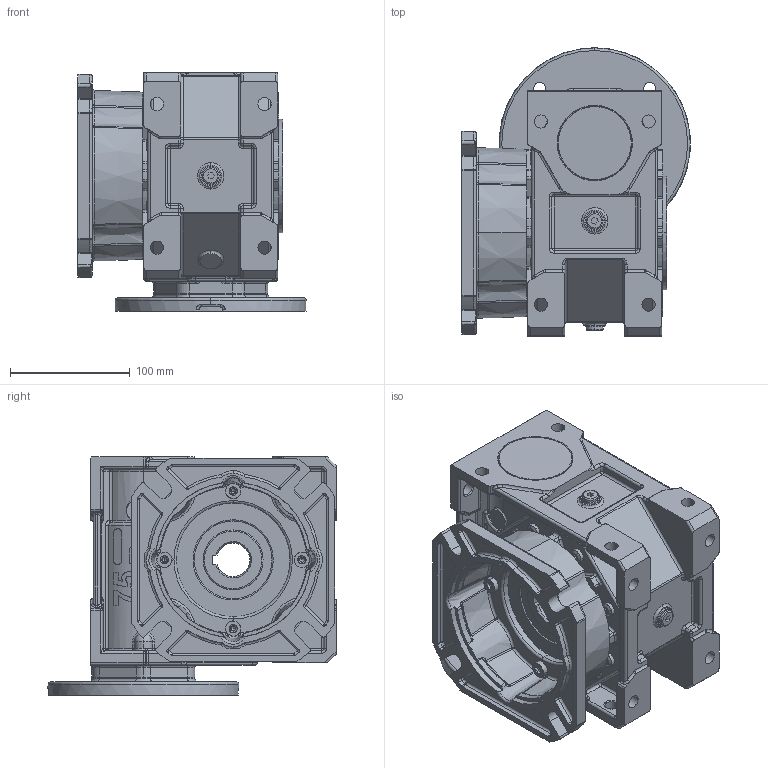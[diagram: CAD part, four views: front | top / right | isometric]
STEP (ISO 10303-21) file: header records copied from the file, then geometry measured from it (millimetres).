
FILE_DESCRIPTION (( 'STEP AP214' ), '1' );
FILE_NAME ('MKT75-FFR-71-130.STEP', '2006-05-10T05:25:56', ( '' ), ( '' ), 'SwSTEP 2.0', 'SolidWorks 2004146', '' );
FILE_SCHEMA (( 'AUTOMOTIVE_DESIGN' ));
Length unit declared in the file: millimetre
Products named in the file (6): Skrin MKT75_MKT 75 AP71; D6912_Šroub DIN 6912 - M8x25; pøíruba130 d72 MRT80a_Výchozí; Pøíruba FF MKT 75_Výchozí; MKT75-FFR-71-130; D6912_Šroub DIN 6912 - M6x25
Assembly tree (13 placements, depth 2):
  MKT75-FFR-71-130
    D6912_Šroub DIN 6912 - M6x25  x6
    D6912_Šroub DIN 6912 - M8x25  x4
    Pøíruba FF MKT 75_Výchozí
    pøíruba130 d72 MRT80a_Výchozí
    Skrin MKT75_MKT 75 AP71
Bounding box: 190.72 x 240.81 x 199 mm (x, y, z)
Volume: 3580743.8 mm3; surface area: 383620.4 mm2
Topology: 13 solids, 13 shells, 3038 faces, 7129 edges, 4018 vertices
Faces by surface type: cylinder 1087, torus 576, plane 561, bspline 305, sphere 257, cone 252
Entity records: 237298 total; most frequent: CARTESIAN_POINT 171212, DIRECTION 14002, ORIENTED_EDGE 12690, EDGE_CURVE 6345, AXIS2_PLACEMENT_3D 5964, VERTEX_POINT 3724, CIRCLE 3511, EDGE_LOOP 2915
